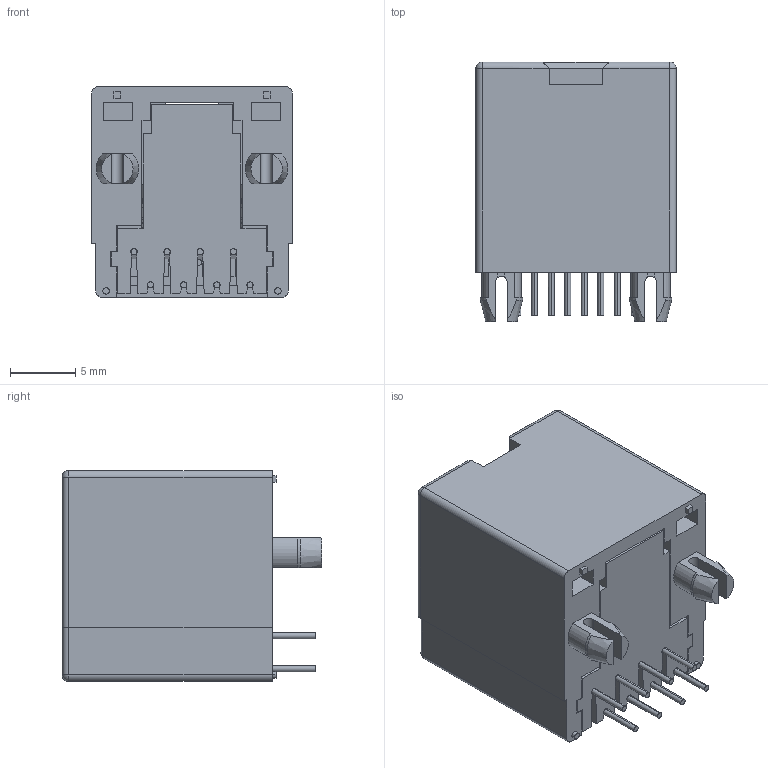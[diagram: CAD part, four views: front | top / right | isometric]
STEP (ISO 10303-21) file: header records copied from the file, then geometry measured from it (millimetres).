
FILE_DESCRIPTION((''),'2;1');
FILE_NAME('5224S-1X1-8P8C-B389_ASM','2018-08-17T13:08:36',('Administrator'),(''),'CREO PARAMETRIC BY PTC INC, 2017110','CREO PARAMETRIC BY PTC INC, 2017110','');
FILE_SCHEMA(('CONFIG_CONTROL_DESIGN','GEOMETRIC_VALIDATION_PROPERTIES_MIM'));
Length unit declared in the file: millimetre
Products named in the file (3): 5224-1X1-SK; 5224-CX; 5224S-1X1-8P8C-B389_ASM
Assembly tree (2 placements, depth 2):
  5224S-1X1-8P8C-B389_ASM
    5224-1X1-SK
    5224-CX
Bounding box: 15.35 x 19.9 x 16.15 mm (x, y, z)
Volume: 2289.3 mm3; surface area: 3791.8 mm2
Topology: 14 solids, 14 shells, 587 faces, 1593 edges, 1024 vertices
Faces by surface type: plane 402, cylinder 97, bspline 80, sphere 4, cone 4
Entity records: 22926 total; most frequent: CARTESIAN_POINT 8350, ORIENTED_EDGE 3186, DIRECTION 2655, EDGE_CURVE 1593, VECTOR 1231, LINE 1231, VERTEX_POINT 1024, AXIS2_PLACEMENT_3D 712
